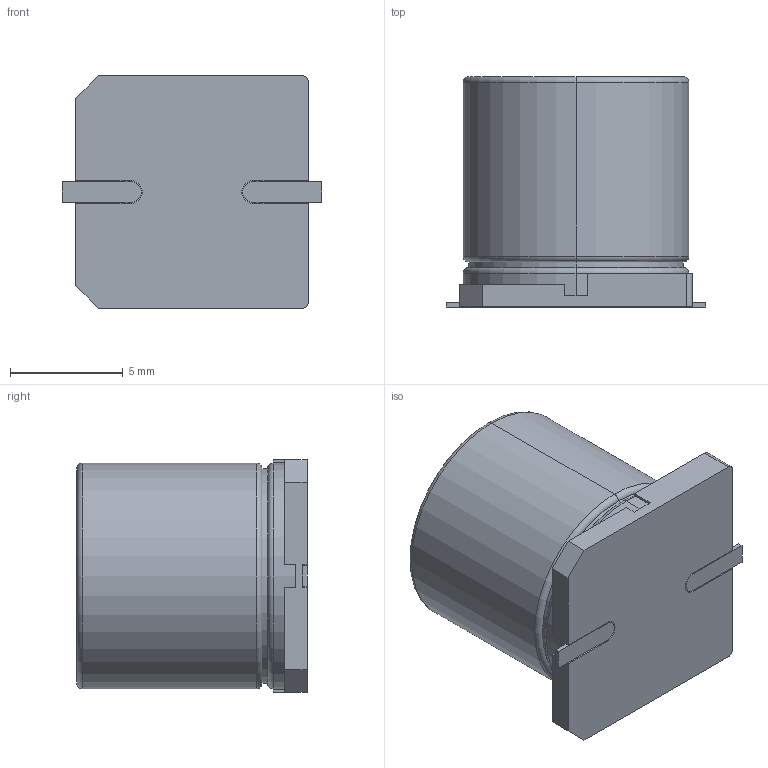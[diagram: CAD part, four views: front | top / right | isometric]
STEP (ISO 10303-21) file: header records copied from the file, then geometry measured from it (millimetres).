
FILE_DESCRIPTION (( 'STEP AP214' ), '1' );
FILE_NAME ( 'CAPAE1030X1020DD450L350.STEP', '2014-04-11T12:31:18', ( '' ), ( '' ), 'FPX Expert 2013', 'PCB Libraries', '' );
FILE_SCHEMA (( 'AUTOMOTIVE_DESIGN' ));
Length unit declared in the file: millimetre
Products named in the file (1): CAPAE1030X1020DD450L350
Bounding box: 11.5 x 10.2 x 10.3 mm (x, y, z)
Volume: 829 mm3; surface area: 819.7 mm2
Topology: 5 solids, 5 shells, 64 faces, 152 edges, 98 vertices
Faces by surface type: plane 41, cylinder 17, torus 6
Entity records: 2087 total; most frequent: DIRECTION 324, CARTESIAN_POINT 315, ORIENTED_EDGE 304, EDGE_CURVE 152, VECTOR 110, LINE 110, AXIS2_PLACEMENT_3D 107, VERTEX_POINT 98
